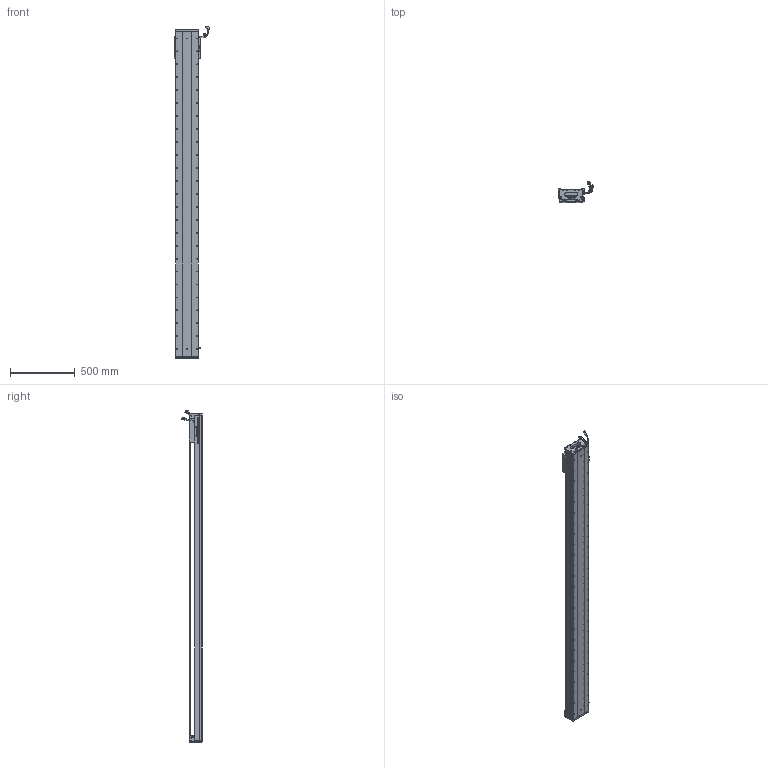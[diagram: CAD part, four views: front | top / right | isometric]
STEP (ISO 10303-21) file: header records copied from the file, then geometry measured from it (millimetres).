
FILE_DESCRIPTION (( 'STEP AP203' ), '1' );
FILE_NAME ('Z2-RY170D-1-L500-B-K.SLDASM_2250.step', '2021-05-17T09:10:19', ( '盈信电脑' ), ( '东莞市道滘镇水果街19号' ), 'SwSTEP 2.0', 'SolidWorks 2016', '' );
FILE_SCHEMA (( 'CONFIG_CONTROL_DESIGN' ));
Length unit declared in the file: millimetre
Products named in the file (36): HARNESS-Part-1; HARNESS-Part-2; 080黍杅芛假蚾釱21遴; SHIELDPLATE; 140雄赽晤鎢ん堤盄; COVER; 覜茼ん672; SEAL-Part-1; SCREW-M1.7; COVER-Part-1; SCREW-M1.6-1; SCREW-M1.6; PBU_SHEET; SCALE; 140蚥薯蝶輸; Z-170詩湍傷裔啣; SCREW-M1.7-1; SCREW-M1.6-3; SEAL; 170-Z-臏賑輸盄裔(21遴); LABEL; Z-RY170詩湍狟揤裔; RY170直线电机感应器672光电感应片; Z2-RY170-L500耀郪菁釱_2250; SCREW-M1.6-2; Z2-RY170臏賑輸(21遴); SCALE-Part-2; HARNESS; Z-RY170詩湍奻揤裔; HOLDER0; SCALE-Part-1; PSLH080_PSLF2; LABEL-Part-1; Z2-RY170D-1-L500-B-K.SLDASM_2250; 榋妏寠巭燃_暯_M2_2; Z2-RY170-L500詩湍145mm遵_2250
Assembly tree (41 placements, depth 4):
  Z2-RY170D-1-L500-B-K.SLDASM_2250
    Z2-RY170-L500耀郪菁釱_2250
    RY170直线电机感应器672光电感应片
    Z2-RY170臏賑輸(21遴)
    覜茼ん672  x3
    PSLH080_PSLF2
      SCALE
        SCALE-Part-1
        SCALE-Part-2
      HARNESS
        HARNESS-Part-1
        HARNESS-Part-2
      LABEL
        LABEL-Part-1
      COVER
        COVER-Part-1
      SEAL
        SEAL-Part-1
      榋妏寠巭燃_暯_M2_2
      SHIELDPLATE
      SCREW-M1.7
      SCREW-M1.7-1
      PBU_SHEET
      SCREW-M1.6
      SCREW-M1.6-1
      SCREW-M1.6-2
      SCREW-M1.6-3
      HOLDER0
    080黍杅芛假蚾釱21遴
    Z2-RY170-L500詩湍145mm遵_2250
    Z-170詩湍傷裔啣  x2
    Z-RY170詩湍奻揤裔  x2
    Z-RY170詩湍狟揤裔  x2
    140蚥薯蝶輸  x2
    170-Z-臏賑輸盄裔(21遴)
    140雄赽晤鎢ん堤盄
Bounding box: 275.34 x 158.11 x 2563.72 mm (x, y, z)
Volume: 12569675.9 mm3; surface area: 3115572.2 mm2
Topology: 36 solids, 36 shells, 4018 faces, 11137 edges, 6959 vertices
Faces by surface type: cylinder 2020, plane 1308, cone 568, torus 69, bspline 53
Entity records: 126437 total; most frequent: CARTESIAN_POINT 35372, ORIENTED_EDGE 18742, DIRECTION 17467, EDGE_CURVE 9371, AXIS2_PLACEMENT_3D 6436, VERTEX_POINT 6077, VECTOR 4595, LINE 4595
